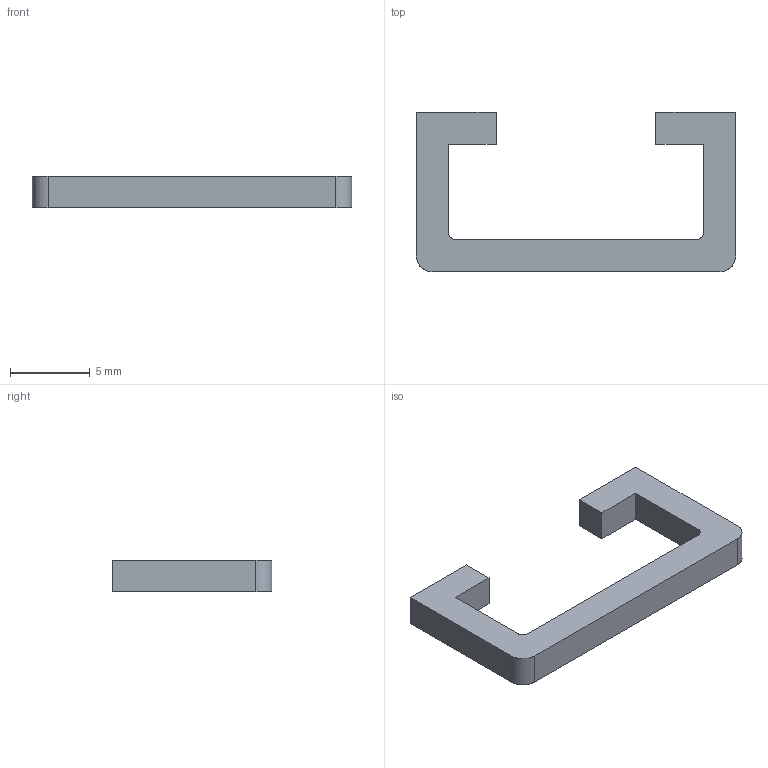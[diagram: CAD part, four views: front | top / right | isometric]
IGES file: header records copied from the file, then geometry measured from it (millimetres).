
Start section: SolidWorks IGES file using analytic representation for surfaces
Global section: file name: C:\Documents and Settings\ARGE\Desktop\yeni katalog tolgay düzenli\B kataloðu\balýk sýrtý profil\export\206 BSA 101.IGS; native system: SolidWorks 2006 by SolidWorks Corporation; preprocessor: SolidWorks 2006 by SolidWorks Corporation; author: ARGE2; date: 060911.123426; units: millimetre
Bounding box: 20 x 10 x 2 mm (x, y, z)
Surface area: 340.8 mm2 (no closed solid volume)
Topology: 0 solids, 0 shells, 18 faces, 136 edges, 136 vertices
Faces by surface type: bspline 14, revolution 4
